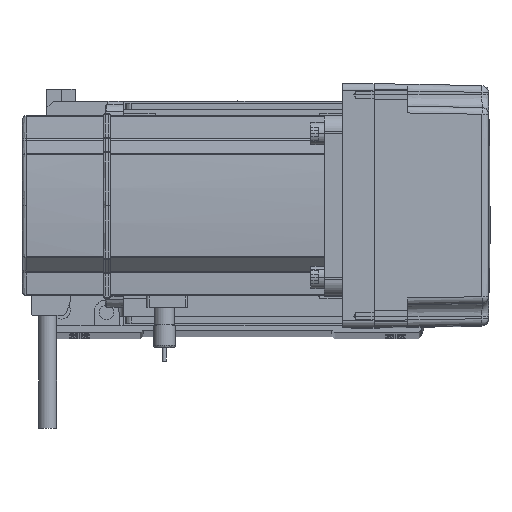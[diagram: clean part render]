
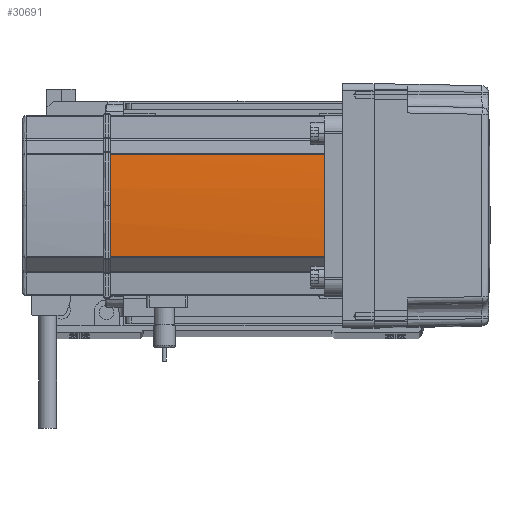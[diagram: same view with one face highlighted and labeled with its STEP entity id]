
A CAD part, top view. The second image highlights one B-rep face of the part: STEP entity #30691.
In plain terms, the highlighted cylindrical face has radius 270 mm (diameter 540 mm), a partial arc.
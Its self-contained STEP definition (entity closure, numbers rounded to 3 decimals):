
#3944 = ORIENTED_EDGE ( 'NONE', *, *, #17846, .T. ) ;
#7273 = VERTEX_POINT ( 'NONE', #17648 ) ;
#7910 = CIRCLE ( 'NONE', #26634, 270. ) ;
#8469 = VERTEX_POINT ( 'NONE', #43301 ) ;
#8751 = VERTEX_POINT ( 'NONE', #60161 ) ;
#10073 = EDGE_LOOP ( 'NONE', ( #38884, #54881, #13202, #34152, #3944 ) ) ;
#10114 = CARTESIAN_POINT ( 'NONE',  ( 230., 0., 0. ) ) ;
#12901 = DIRECTION ( 'NONE',  ( 1., 0., 0. ) ) ;
#13052 = LINE ( 'NONE', #32416, #25384 ) ;
#13202 = ORIENTED_EDGE ( 'NONE', *, *, #18789, .T. ) ;
#14130 = VERTEX_POINT ( 'NONE', #59780 ) ;
#17648 = CARTESIAN_POINT ( 'NONE',  ( -40., 0., 134. ) ) ;
#17846 = EDGE_CURVE ( 'NONE', #8469, #14130, #36374, .T. ) ;
#18149 = DIRECTION ( 'NONE',  ( 0., 0., -1. ) ) ;
#18789 = EDGE_CURVE ( 'NONE', #29375, #8751, #13052, .T. ) ;
#19467 = DIRECTION ( 'NONE',  ( 0., 0., 1. ) ) ;
#21549 = CIRCLE ( 'NONE', #27955, 270. ) ;
#21788 = DIRECTION ( 'NONE',  ( 1., 0., 0. ) ) ;
#21851 = VECTOR ( 'NONE', #50165, 1000. ) ;
#22122 = CARTESIAN_POINT ( 'NONE',  ( -39.042, -22.724, 0. ) ) ;
#22250 = DIRECTION ( 'NONE',  ( 0., 0., -1. ) ) ;
#25384 = VECTOR ( 'NONE', #18149, 1000. ) ;
#26033 = CARTESIAN_POINT ( 'NONE',  ( 230., 0., 39. ) ) ;
#26634 = AXIS2_PLACEMENT_3D ( 'NONE', #58334, #39760, #58524 ) ;
#27955 = AXIS2_PLACEMENT_3D ( 'NONE', #26033, #59638, #21788 ) ;
#28396 = EDGE_CURVE ( 'NONE', #14130, #7273, #32388, .T. ) ;
#29375 = VERTEX_POINT ( 'NONE', #59029 ) ;
#30691 = ADVANCED_FACE ( 'NONE', ( #35177 ), #43851, .T. ) ;
#32388 = CIRCLE ( 'NONE', #58091, 270. ) ;
#32416 = CARTESIAN_POINT ( 'NONE',  ( -39.042, 22.724, 0. ) ) ;
#34152 = ORIENTED_EDGE ( 'NONE', *, *, #50710, .F. ) ;
#35147 = DIRECTION ( 'NONE',  ( 1., 0., 0. ) ) ;
#35177 = FACE_OUTER_BOUND ( 'NONE', #10073, .T. ) ;
#36374 = LINE ( 'NONE', #22122, #21851 ) ;
#38884 = ORIENTED_EDGE ( 'NONE', *, *, #28396, .T. ) ;
#39760 = DIRECTION ( 'NONE',  ( 0., 0., -1. ) ) ;
#40368 = CARTESIAN_POINT ( 'NONE',  ( 230., 0., 134. ) ) ;
#43301 = CARTESIAN_POINT ( 'NONE',  ( -39.042, -22.724, 39. ) ) ;
#43851 = CYLINDRICAL_SURFACE ( 'NONE', #57741, 270. ) ;
#46597 = EDGE_CURVE ( 'NONE', #7273, #29375, #7910, .T. ) ;
#50165 = DIRECTION ( 'NONE',  ( 0., 0., 1. ) ) ;
#50710 = EDGE_CURVE ( 'NONE', #8469, #8751, #21549, .T. ) ;
#54881 = ORIENTED_EDGE ( 'NONE', *, *, #46597, .T. ) ;
#57741 = AXIS2_PLACEMENT_3D ( 'NONE', #10114, #19467, #35147 ) ;
#58091 = AXIS2_PLACEMENT_3D ( 'NONE', #40368, #22250, #12901 ) ;
#58334 = CARTESIAN_POINT ( 'NONE',  ( 230., 0., 134. ) ) ;
#58524 = DIRECTION ( 'NONE',  ( 1., 0., 0. ) ) ;
#59029 = CARTESIAN_POINT ( 'NONE',  ( -39.042, 22.724, 134. ) ) ;
#59638 = DIRECTION ( 'NONE',  ( 0., 0., -1. ) ) ;
#59780 = CARTESIAN_POINT ( 'NONE',  ( -39.042, -22.724, 134. ) ) ;
#60161 = CARTESIAN_POINT ( 'NONE',  ( -39.042, 22.724, 39. ) ) ;
